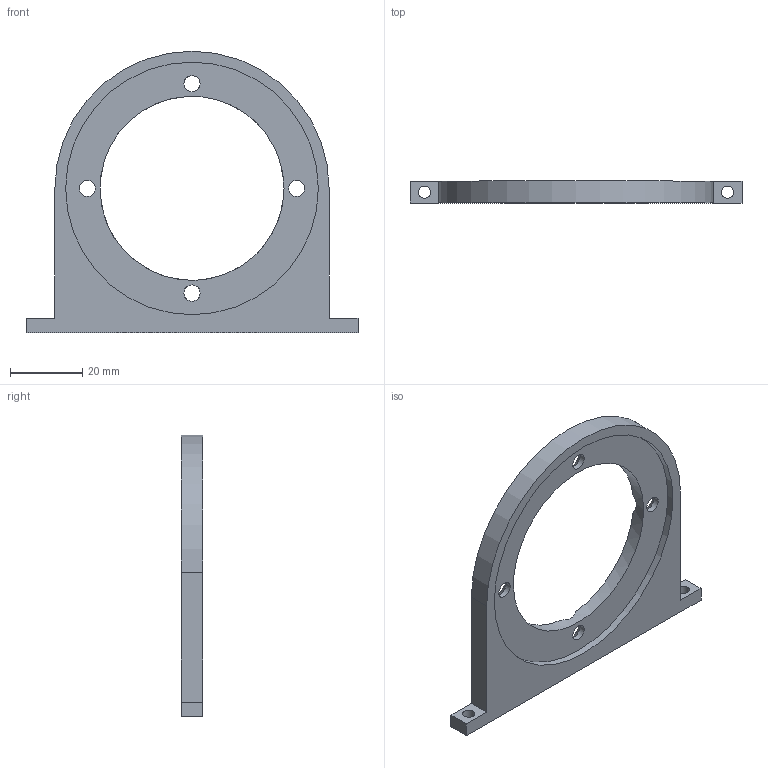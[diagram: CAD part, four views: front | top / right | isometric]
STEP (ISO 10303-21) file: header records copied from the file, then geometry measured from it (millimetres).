
FILE_DESCRIPTION(/* description */ (''),/* implementation_level */ '2;1');
FILE_NAME(/* name */ 'CWC-SE0008-P04_Torque Sensor Holder TD70.stp',/* time_stamp */ '2026-04-28T16:14:59+02:00',/* author */ (''),/* organization */ (''),/* preprocessor_version */ 'ST-DEVELOPER v18.1',/* originating_system */ 'SIEMENS PLM Software NX 1988',/* authorisation */ '');
FILE_SCHEMA (('AUTOMOTIVE_DESIGN { 1 0 10303 214 3 1 1 1 }'));
Length unit declared in the file: millimetre
Products named in the file (1): anto6558201A7exi
Bounding box: 92 x 6 x 78 mm (x, y, z)
Volume: 15836.8 mm3; surface area: 9660.3 mm2
Topology: 1 solids, 1 shells, 23 faces, 74 edges, 50 vertices
Faces by surface type: plane 10, cylinder 9, cone 4
Full cylindrical faces by diameter (mm): 3.4 x2, 4.5 x4, 51 x1, 70 x1
Entity records: 742 total; most frequent: CARTESIAN_POINT 134, DIRECTION 120, ORIENTED_EDGE 102, EDGE_CURVE 51, AXIS2_PLACEMENT_3D 49, EDGE_LOOP 46, FACE_BOUND 41, VERTEX_POINT 39
